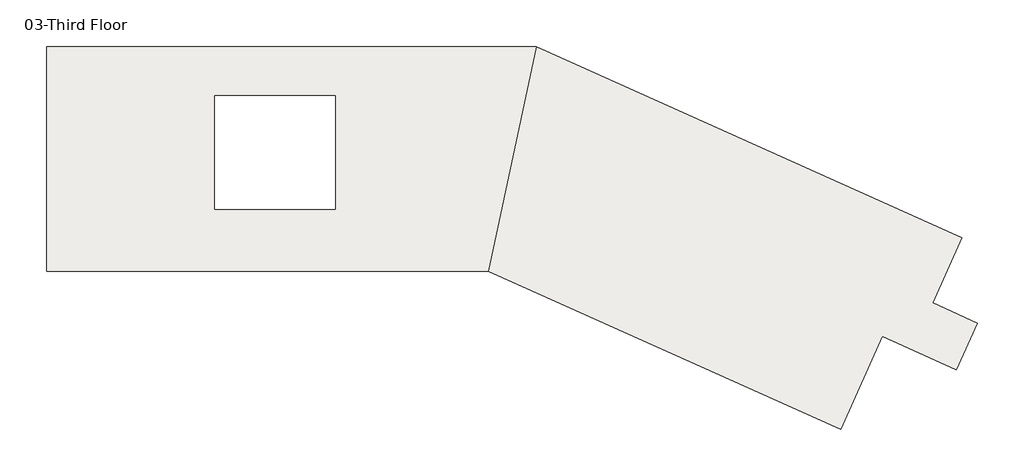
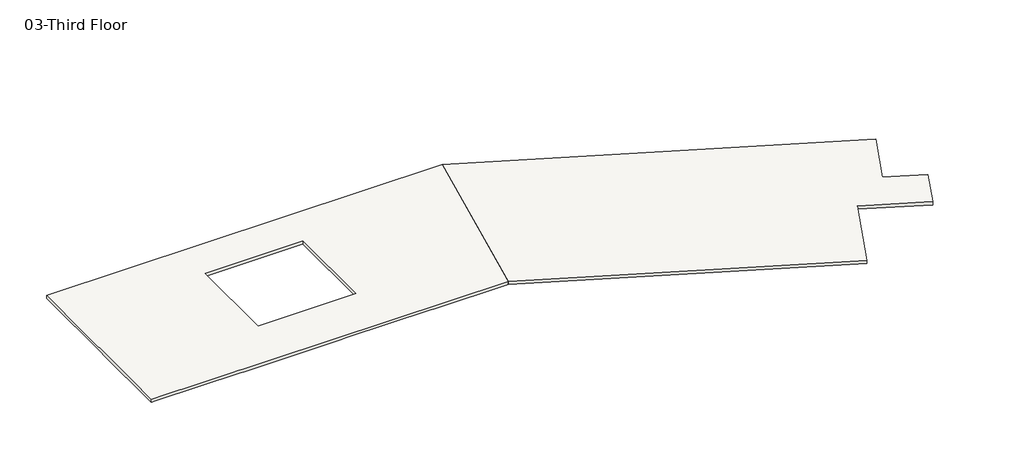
# One storey: 2 slabs.
"""IFC4 building model written with IfcOpenShell, lengths in millimetres."""

import ifcopenshell
import ifcopenshell.guid

model = None  # the IFC model being written
_history = None  # IfcOwnerHistory: only IFC2X3 demands one
_inside = {}  # id of a spatial element -> (the spatial element, [elements in it])
_under = {}  # id of a project, library or spatial element -> (it, [spatial elements below it])
_declared = {}  # id of a project -> (the project, [libraries it declares])
_typed = {}  # id of a type object -> (the type object, [elements of that type])
_made_of = {}  # id of a material, layer set ... -> (it, [elements and type objects made of it])


def new_model(schema):
    """Start an empty IFC model of exactly this schema.

    Asked for "IFC4X3", IfcOpenShell would pick the latest addendum, in which some entities
    have other attributes; the version numbers below select the first issue.
    IFC2X3 requires an IfcOwnerHistory on every rooted entity: one is made here for all.
    """
    global model, _history
    if schema == "IFC4X3":
        model = ifcopenshell.file(schema_version=(4, 3, 0, 0))
    else:
        model = ifcopenshell.file(schema=schema)
    _inside.clear()
    _under.clear()
    _declared.clear()
    _typed.clear()
    _made_of.clear()
    _history = None
    if model.schema == "IFC2X3":
        org = make("IfcOrganization", Name="unknown")
        user = make(
            "IfcPersonAndOrganization",
            ThePerson=make("IfcPerson", FamilyName="unknown"),
            TheOrganization=org,
        )
        app = make(
            "IfcApplication",
            ApplicationDeveloper=org,
            Version="unknown",
            ApplicationFullName="unknown",
            ApplicationIdentifier="unknown",
        )
        _history = make(
            "IfcOwnerHistory",
            OwningUser=user,
            OwningApplication=app,
            ChangeAction="ADDED",
            CreationDate=0,
        )
    return model


def make(cls, **values):
    """One entity of the class cls with the attributes given. An attribute that is None is left unset."""
    return model.create_entity(
        cls, **{name: value for name, value in values.items() if value is not None}
    )


def rooted(cls, **values):
    """An entity with a GlobalId (a new one), such as an element, a storey or a relation."""
    return make(cls, GlobalId=ifcopenshell.guid.new(), OwnerHistory=_history, **values)


def si_unit(unit_type, name, prefix=None):
    """IfcSIUnit, for example si_unit("LENGTHUNIT", "METRE", prefix="MILLI")."""
    return make("IfcSIUnit", UnitType=unit_type, Prefix=prefix, Name=name)


def assignment(units):
    """IfcUnitAssignment: the units of a project."""
    return None if units is None else make("IfcUnitAssignment", Units=units)


def point(xyz):
    """IfcCartesianPoint."""
    return None if xyz is None else make("IfcCartesianPoint", Coordinates=xyz)


def direction(xyz):
    """IfcDirection."""
    return None if xyz is None else make("IfcDirection", DirectionRatios=xyz)


def frame(location, z_axis=None, x_axis=None):
    """IfcAxis2Placement3D, a coordinate frame: its origin and axes. An axis left out is left unset."""
    return make(
        "IfcAxis2Placement3D",
        Location=point(location),
        Axis=direction(z_axis),
        RefDirection=direction(x_axis),
    )


def origin():
    """The frame at (0, 0, 0) with its axes left unset."""
    return frame((0.0, 0.0, 0.0))


def place(relative_to, where):
    """IfcLocalPlacement: puts the frame where relative to a parent placement (None: the world)."""
    return make(
        "IfcLocalPlacement", PlacementRelTo=relative_to, RelativePlacement=where
    )


def context(
    kind, dimensions, precision=None, world=None, true_north=None, identifier=None
):
    """IfcGeometricRepresentationContext, for example the 3D "Model" context."""
    return make(
        "IfcGeometricRepresentationContext",
        ContextIdentifier=identifier,
        ContextType=kind,
        CoordinateSpaceDimension=dimensions,
        Precision=precision,
        WorldCoordinateSystem=world,
        TrueNorth=true_north,
    )


def project(units=None, contexts=None):
    """IfcProject with its units and contexts."""
    return rooted(
        "IfcProject",
        Name="project",
        RepresentationContexts=contexts,
        UnitsInContext=assignment(units),
    )


def spatial(cls, under=None, at=None, **own):
    """A site, building, storey or space (cls), placed at a placement, below another one or the project."""
    s = rooted(cls, ObjectPlacement=at, **own)
    if under is not None:
        _under.setdefault(under.id(), (under, []))[1].append(s)
    return s


def polyline(points):
    """IfcPolyline through the points."""
    return make("IfcPolyline", Points=[point(p) for p in points])


def outline(outer, holes=None, kind="AREA"):
    """IfcArbitraryClosedProfileDef: a profile drawn as a closed curve; with holes, ...WithVoids."""
    if holes is None:
        return make("IfcArbitraryClosedProfileDef", ProfileType=kind, OuterCurve=outer)
    return make(
        "IfcArbitraryProfileDefWithVoids",
        ProfileType=kind,
        OuterCurve=outer,
        InnerCurves=holes,
    )


def extrude(swept, where, along, depth):
    """IfcExtrudedAreaSolid: the profile swept, set in the frame where, extruded along a direction by depth."""
    return make(
        "IfcExtrudedAreaSolid",
        SweptArea=swept,
        Position=where,
        ExtrudedDirection=direction(along),
        Depth=depth,
    )


def faces_of(points, faces, orient=None, outer=None):
    """IfcFace entities. A face is a list of loops; a loop is a list of indices into points, from 0.

    orient and outer hold one flag for each loop. By default every Orientation is true, the
    first loop of a face is its IfcFaceOuterBound and the others are IfcFaceBound.
    """
    made = []
    for i, loops in enumerate(faces):
        bounds = []
        for j, loop in enumerate(loops):
            is_outer = j == 0 if outer is None else outer[i][j]
            bounds.append(
                make(
                    "IfcFaceOuterBound" if is_outer else "IfcFaceBound",
                    Bound=make("IfcPolyLoop", Polygon=[points[k] for k in loop]),
                    Orientation=True if orient is None else orient[i][j],
                )
            )
        made.append(make("IfcFace", Bounds=bounds))
    return made


def faceted_brep(points, faces, orient=None, outer=None, voids=None):
    """IfcFacetedBrep: a solid bounded by flat faces; with voids (closed shells), ...WithVoids."""
    shared = [point(p) for p in points]
    hull = make("IfcClosedShell", CfsFaces=faces_of(shared, faces, orient, outer))
    if voids is None:
        return make("IfcFacetedBrep", Outer=hull)
    return make(
        "IfcFacetedBrepWithVoids",
        Outer=hull,
        Voids=[
            make(cls, CfsFaces=faces_of(shared, fs, o, b)) for cls, fs, o, b in voids
        ],
    )


def shape(context_of_items, identifier, shape_type, items):
    """IfcShapeRepresentation: the items that make up one representation, for example the "Body"."""
    return make(
        "IfcShapeRepresentation",
        ContextOfItems=context_of_items,
        RepresentationIdentifier=identifier,
        RepresentationType=shape_type,
        Items=items,
    )


def made_of(thing, what):
    """Note that an element or type object is made of a material, layer set ...; save() writes the relation."""
    if what is not None:
        _made_of.setdefault(what.id(), (what, []))[1].append(thing)
    return thing


def element(
    cls,
    number,
    at=None,
    inside=None,
    cuts=None,
    type_object=None,
    material=None,
    context=None,
    identifier="Body",
    shape_type=None,
    held_by="IfcProductDefinitionShape",
    body=None,
    shapes=None,
    **own,
):
    """One element of the class cls, such as IfcWall. Its Tag is "e" and its number.

    at: its placement. inside: the storey or other place that contains it. cuts: it is an
    opening in that element (IfcRelVoidsElement). A single representation is given by context,
    identifier, shape_type and body (its items); several are given by shapes. held_by: the class
    of the entity that holds the representations. save() writes the other relations.
    """
    e = rooted(cls, Tag="e%d" % number, ObjectPlacement=at, **own)
    if body is not None:
        shapes = [shape(context, identifier, shape_type, body)]
    if shapes is not None:
        e.Representation = make(held_by, Representations=shapes)
    if inside is not None:
        _inside.setdefault(inside.id(), (inside, []))[1].append(e)
    if cuts is not None:
        rooted(
            "IfcRelVoidsElement", RelatingBuildingElement=cuts, RelatedOpeningElement=e
        )
    if type_object is not None:
        _typed.setdefault(type_object.id(), (type_object, []))[1].append(e)
    return made_of(e, material)


def aggregate(whole, parts):
    """IfcRelAggregates: a whole, such as a stair, and the parts it consists of."""
    return rooted("IfcRelAggregates", RelatingObject=whole, RelatedObjects=parts)


def save(model, path):
    """Write the relations noted so far, then the file.

    IfcRelAggregates (storeys below a building ...), IfcRelContainedInSpatialStructure (elements
    in a storey), IfcRelDefinesByType, IfcRelAssociatesMaterial and IfcRelDeclares: one each for
    every whole, place, type object, material and project.
    """
    for whole, parts in _under.values():
        aggregate(whole, parts)
    for where, things in _inside.values():
        rooted(
            "IfcRelContainedInSpatialStructure",
            RelatedElements=things,
            RelatingStructure=where,
        )
    for kind, things in _typed.values():
        rooted("IfcRelDefinesByType", RelatedObjects=things, RelatingType=kind)
    for what, things in _made_of.values():
        rooted("IfcRelAssociatesMaterial", RelatedObjects=things, RelatingMaterial=what)
    for by, libraries in _declared.values():
        rooted("IfcRelDeclares", RelatingContext=by, RelatedDefinitions=libraries)
    model.write(path)


model = new_model("IFC4")

# Units and contexts
model_context = context("Model", 3, world=origin())
ifc_project = project(units=[si_unit("LENGTHUNIT", "METRE", prefix="MILLI")], contexts=[model_context])

# Site, building, storey
site = spatial("IfcSite", under=ifc_project)
building = spatial("IfcBuilding", under=site)
storey = spatial("IfcBuildingStorey", under=building, Name="03-Third Floor", Elevation=10058.4)

# Slabs
placement = place(None, origin())
element("IfcSlab", 1, ObjectType="RC Slab 10\"", at=placement, inside=storey, context=model_context, shape_type="SweptSolid", body=[
    extrude(outline(polyline([(58160.2438961, -12032.9092683), (56297.2468229, -16180.2956098), (59147.1268229, -17460.4556098), (57809.7238961, -20437.7692683), (53083.0936522, -18314.5770732), (50423.8995059, -24234.4497561), (27969.0958822, -14147.8), (31033.4244536, 152.4), (58160.2438961, -12032.9092683)])), frame((0.0, 0.0, 9804.4), z_axis=(0.0, 0.0, 1.0), x_axis=(1.0, 0.0, 0.0)), (0.0, 0.0, 1.0), 254.0),
])
element("IfcSlab", 2, ObjectType="RC Slab 10\"", at=placement, inside=storey, context=model_context, shape_type="Brep", body=[
    faceted_brep([(31033.4244536, 152.4, 9804.4), (27969.0958822, -14147.8, 9804.4), (22161.5, -14147.8, 9804.4), (21856.7, -14147.8, 9804.4), (15151.1, -14147.8, 9804.4), (14846.3, -14147.8, 9804.4), (7162.8, -14147.8, 9804.4), (6858.0, -14147.8, 9804.4), (152.4, -14147.8, 9804.4), (-152.4, -14147.8, 9804.4), (-152.4, -13843.0, 9804.4), (-152.4, -7658.1, 9804.4), (-152.4, -7353.3, 9804.4), (-152.4, -152.4, 9804.4), (-152.4, 152.4, 9804.4), (152.4, 152.4, 9804.4), (6858.0, 152.4, 9804.4), (7162.8, 152.4, 9804.4), (14846.3, 152.4, 9804.4), (15151.1, 152.4, 9804.4), (21856.7, 152.4, 9804.4), (22161.5, 152.4, 9804.4), (18249.9, -2984.5, 9804.4), (10553.7, -2984.5, 9804.4), (10553.7, -10198.1, 9804.4), (18249.9, -10198.1, 9804.4), (31033.4244536, 152.4, 10058.4), (-152.4, 152.4, 10058.4), (-152.4, -14147.8, 10058.4), (27969.0958822, -14147.8, 10058.4), (18249.9, -2984.5, 10058.4), (18249.9, -10198.1, 10058.4), (10553.7, -10198.1, 10058.4), (10553.7, -2984.5, 10058.4)], [[[0, 1, 2, 3, 4, 5, 6, 7, 8, 9, 10, 11, 12, 13, 14, 15, 16, 17, 18, 19, 20, 21], [22, 23, 24, 25]], [[26, 27, 28, 29], [30, 31, 32, 33]], [[1, 0, 26, 29]], [[9, 8, 7, 6, 5, 4, 3, 2, 1, 29, 28]], [[14, 13, 12, 11, 10, 9, 28, 27]], [[0, 21, 20, 19, 18, 17, 16, 15, 14, 27, 26]], [[23, 22, 30, 33]], [[24, 23, 33, 32]], [[25, 24, 32, 31]], [[22, 25, 31, 30]]]),
])

save(model, "model.ifc")
